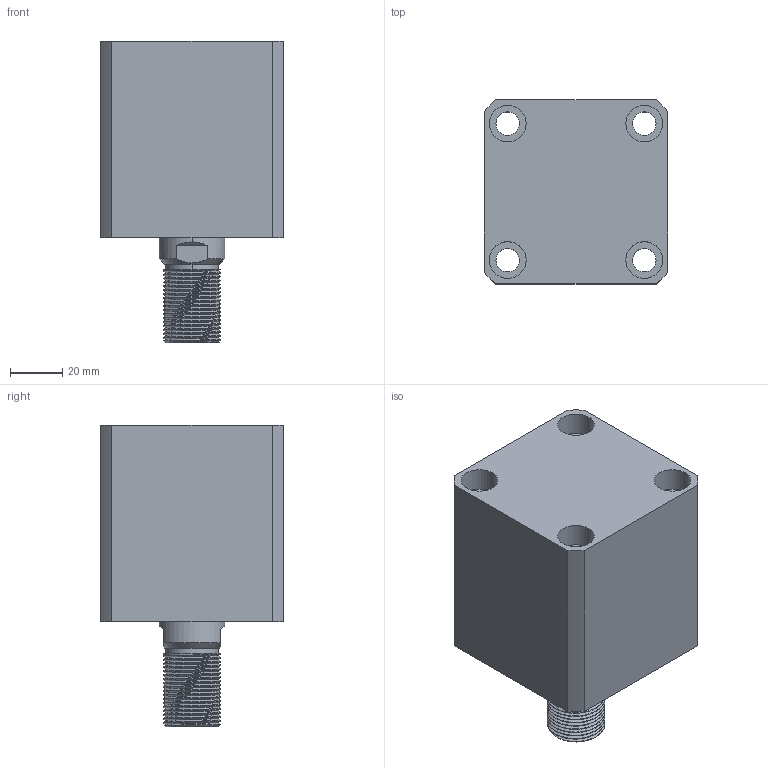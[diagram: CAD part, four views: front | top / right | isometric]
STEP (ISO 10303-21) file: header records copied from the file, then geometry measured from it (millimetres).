
FILE_DESCRIPTION (( 'STEP AP214' ), '1' );
FILE_NAME ('chtb-sd40x20w_asm.STEP', '2018-06-08T06:38:42', ( 'Windows' ), ( 'Microsoft' ), 'SwSTEP 2.0', 'SolidWorks 2015', '' );
FILE_SCHEMA (( 'AUTOMOTIVE_DESIGN' ));
Length unit declared in the file: millimetre
Products named in the file (4): CHTB-SD40X20WHSG; CHTB-SD40X20NBT; CHTB-SD40QG; chtb-sd40x20w_asm
Assembly tree (3 placements, depth 2):
  chtb-sd40x20w_asm
    CHTB-SD40QG
    CHTB-SD40X20NBT
    CHTB-SD40X20WHSG
Bounding box: 70 x 70 x 115 mm (x, y, z)
Volume: 333191.8 mm3; surface area: 72838.6 mm2
Topology: 3 solids, 4 shells, 203 faces, 533 edges, 355 vertices
Faces by surface type: cylinder 118, plane 40, bspline 16, cone 15, torus 14
Entity records: 13425 total; most frequent: CARTESIAN_POINT 8554, ORIENTED_EDGE 1054, DIRECTION 914, EDGE_CURVE 527, AXIS2_PLACEMENT_3D 380, VERTEX_POINT 355, EDGE_LOOP 240, FACE_OUTER_BOUND 203
